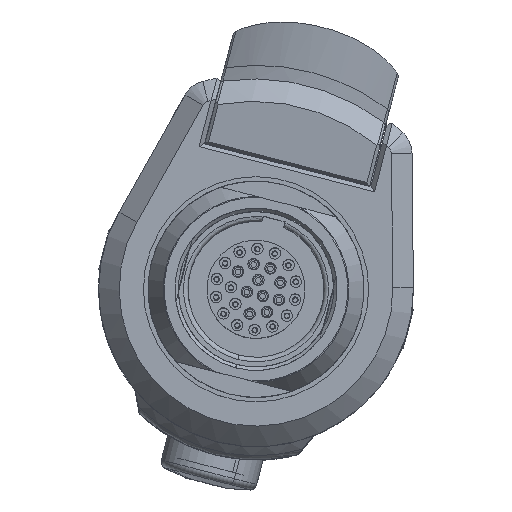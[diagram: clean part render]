
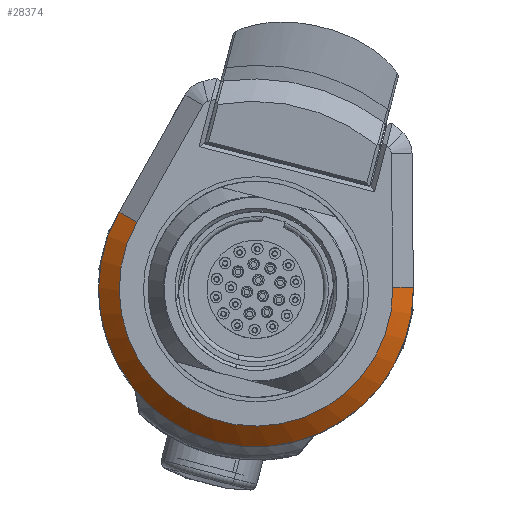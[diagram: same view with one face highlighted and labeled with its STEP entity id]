
A CAD part, top view. The second image highlights one B-rep face of the part: STEP entity #28374.
In plain terms, the highlighted conical face has half-angle 45 degrees and reference radius 17.462 mm.
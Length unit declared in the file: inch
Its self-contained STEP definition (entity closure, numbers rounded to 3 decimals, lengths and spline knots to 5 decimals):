
#3019 = B_SPLINE_CURVE_WITH_KNOTS ( 'NONE', 3,
 ( #55799, #55806, #55807, #55808 ),
 .UNSPECIFIED., .F., .F.,
 ( 4, 4 ),
 ( 0., 0.00323 ),
 .UNSPECIFIED. ) ;
#6103 = CARTESIAN_POINT ( 'NONE',  ( -0.3845, -0.38031, 4.19649 ) ) ;
#6104 = DIRECTION ( 'NONE',  ( 0., 0., -1. ) ) ;
#6105 = DIRECTION ( 'NONE',  ( 0.249, 0.969, 0. ) ) ;
#6321 = CARTESIAN_POINT ( 'NONE',  ( -0.3845, -0.38031, 4.19649 ) ) ;
#6325 = DIRECTION ( 'NONE',  ( 0., 0., -1. ) ) ;
#6326 = DIRECTION ( 'NONE',  ( 0.249, 0.969, 0. ) ) ;
#6536 = CARTESIAN_POINT ( 'NONE',  ( -0.3845, -0.38031, 4.28649 ) ) ;
#6540 = DIRECTION ( 'NONE',  ( 0., 0., 1. ) ) ;
#6541 = DIRECTION ( 'NONE',  ( 0.249, 0.969, 0. ) ) ;
#20861 = CIRCLE ( 'NONE', #33556, 0.6875 ) ;
#20872 = CIRCLE ( 'NONE', #33573, 0.6875 ) ;
#20928 = CIRCLE ( 'NONE', #33618, 0.5975 ) ;
#23843 = CARTESIAN_POINT ( 'NONE',  ( -0.3845, -0.38031, 4.19649 ) ) ;
#23844 = DIRECTION ( 'NONE',  ( 0., 0., -1. ) ) ;
#23845 = DIRECTION ( 'NONE',  ( 0.249, 0.969, 0. ) ) ;
#25360 = FACE_OUTER_BOUND ( 'NONE', #45102, .T. ) ;
#25364 = AXIS2_PLACEMENT_3D ( 'NONE', #23843, #23844, #23845 ) ;
#28374 = ADVANCED_FACE ( 'NONE', ( #25360 ), #41033, .T. ) ;
#33556 = AXIS2_PLACEMENT_3D ( 'NONE', #6103, #6104, #6105 ) ;
#33573 = AXIS2_PLACEMENT_3D ( 'NONE', #6321, #6325, #6326 ) ;
#33618 = AXIS2_PLACEMENT_3D ( 'NONE', #6536, #6540, #6541 ) ;
#33739 = VECTOR ( 'NONE', #55812, 39.37008 ) ;
#41033 = CONICAL_SURFACE ( 'NONE', #25364, 0.6875, 0.785 ) ;
#41618 = EDGE_CURVE ( 'NONE', #60175, #60176, #20861, .T. ) ;
#41649 = EDGE_CURVE ( 'NONE', #60228, #60175, #20872, .T. ) ;
#41709 = EDGE_CURVE ( 'NONE', #60308, #60311, #20928, .T. ) ;
#41774 = EDGE_CURVE ( 'NONE', #60228, #60311, #3019, .T. ) ;
#41775 = EDGE_CURVE ( 'NONE', #60176, #60308, #55810, .T. ) ;
#45102 = EDGE_LOOP ( 'NONE', ( #46989, #46990, #46991, #46992, #46993 ) ) ;
#46989 = ORIENTED_EDGE ( 'NONE', *, *, #41774, .T. ) ;
#46990 = ORIENTED_EDGE ( 'NONE', *, *, #41709, .F. ) ;
#46991 = ORIENTED_EDGE ( 'NONE', *, *, #41775, .F. ) ;
#46992 = ORIENTED_EDGE ( 'NONE', *, *, #41618, .F. ) ;
#46993 = ORIENTED_EDGE ( 'NONE', *, *, #41649, .F. ) ;
#55799 = CARTESIAN_POINT ( 'NONE',  ( 0.30293, -0.3706, 4.19649 ) ) ;
#55806 = CARTESIAN_POINT ( 'NONE',  ( 0.27294, -0.37097, 4.22649 ) ) ;
#55807 = CARTESIAN_POINT ( 'NONE',  ( 0.24294, -0.37133, 4.25649 ) ) ;
#55808 = CARTESIAN_POINT ( 'NONE',  ( 0.21294, -0.3717, 4.28649 ) ) ;
#55810 = LINE ( 'NONE', #55811, #33739 ) ;
#55811 = CARTESIAN_POINT ( 'NONE',  ( -0.98336, -0.04264, 4.19649 ) ) ;
#55812 = DIRECTION ( 'NONE',  ( 0.616, -0.347, 0.707 ) ) ;
#60175 = VERTEX_POINT ( 'NONE', #62611 ) ;
#60176 = VERTEX_POINT ( 'NONE', #62613 ) ;
#60228 = VERTEX_POINT ( 'NONE', #62660 ) ;
#60308 = VERTEX_POINT ( 'NONE', #62700 ) ;
#60311 = VERTEX_POINT ( 'NONE', #62701 ) ;
#62611 = CARTESIAN_POINT ( 'NONE',  ( -0.55566, -1.04616, 4.19649 ) ) ;
#62613 = CARTESIAN_POINT ( 'NONE',  ( -0.98336, -0.04264, 4.19649 ) ) ;
#62660 = CARTESIAN_POINT ( 'NONE',  ( 0.30293, -0.3706, 4.19649 ) ) ;
#62700 = CARTESIAN_POINT ( 'NONE',  ( -0.90496, -0.08685, 4.28649 ) ) ;
#62701 = CARTESIAN_POINT ( 'NONE',  ( 0.21294, -0.3717, 4.28649 ) ) ;
